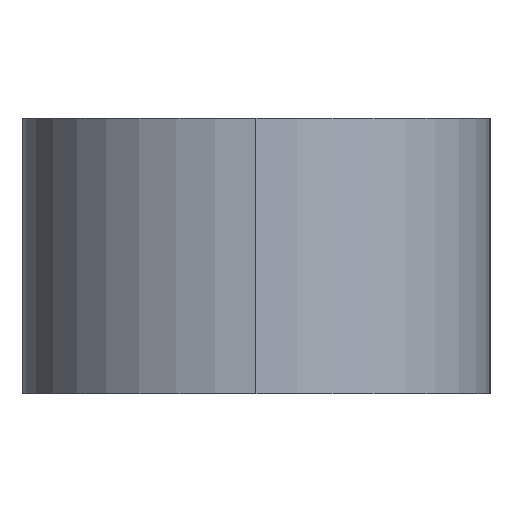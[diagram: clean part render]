
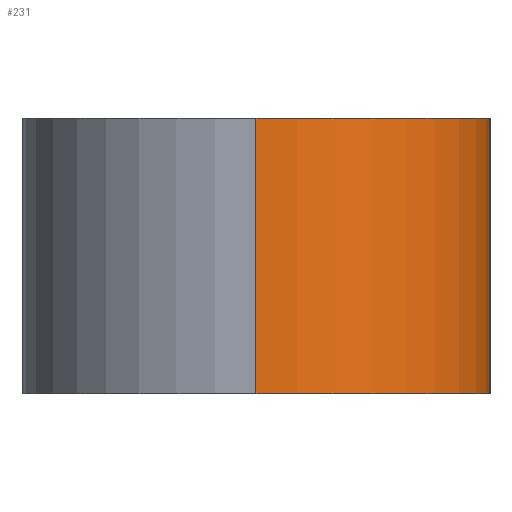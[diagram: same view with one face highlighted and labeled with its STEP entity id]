
A CAD part, left-side view. The second image highlights one B-rep face of the part: STEP entity #231.
In plain terms, the highlighted cylindrical face has radius 8.5 mm (diameter 17 mm), a partial arc.
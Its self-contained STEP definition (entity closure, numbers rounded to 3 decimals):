
#55 = CARTESIAN_POINT ( 'NONE',  ( 0., 0., 0. ) ) ;
#63 = DIRECTION ( 'NONE',  ( 1., 0., 0. ) ) ;
#64 = DIRECTION ( 'NONE',  ( 0., 0., 1. ) ) ;
#65 = CARTESIAN_POINT ( 'NONE',  ( 0., -8.5, 10. ) ) ;
#73 = DIRECTION ( 'NONE',  ( 0., 0., 1. ) ) ;
#74 = CARTESIAN_POINT ( 'NONE',  ( -8.5, 0., 10. ) ) ;
#81 = DIRECTION ( 'NONE',  ( 0., 0., -1. ) ) ;
#82 = CARTESIAN_POINT ( 'NONE',  ( 0., 0., 10. ) ) ;
#88 = DIRECTION ( 'NONE',  ( 0., 0., -1. ) ) ;
#94 = DIRECTION ( 'NONE',  ( 1., 0., 0. ) ) ;
#116 = CARTESIAN_POINT ( 'NONE',  ( 0., -8.5, 0. ) ) ;
#122 = CARTESIAN_POINT ( 'NONE',  ( -8.5, 0., 0. ) ) ;
#124 = CARTESIAN_POINT ( 'NONE',  ( -8.5, 0., 10. ) ) ;
#127 = CARTESIAN_POINT ( 'NONE',  ( 0., -8.5, 10. ) ) ;
#140 = CARTESIAN_POINT ( 'NONE',  ( 0., 0., 10. ) ) ;
#141 = DIRECTION ( 'NONE',  ( 0., 0., -1. ) ) ;
#143 = DIRECTION ( 'NONE',  ( -1., 0., 0. ) ) ;
#188 = AXIS2_PLACEMENT_3D ( 'NONE', #55, #64, #63 ) ;
#189 = AXIS2_PLACEMENT_3D ( 'NONE', #82, #73, #94 ) ;
#197 = EDGE_CURVE ( 'NONE', #356, #355, #344, .T. ) ;
#198 = EDGE_CURVE ( 'NONE', #356, #360, #343, .T. ) ;
#199 = EDGE_CURVE ( 'NONE', #360, #361, #341, .T. ) ;
#200 = EDGE_CURVE ( 'NONE', #355, #361, #338, .T. ) ;
#223 = AXIS2_PLACEMENT_3D ( 'NONE', #140, #141, #143 ) ;
#231 = ADVANCED_FACE ( 'NONE', ( #300 ), #291, .T. ) ;
#242 = ORIENTED_EDGE ( 'NONE', *, *, #199, .T. ) ;
#243 = EDGE_LOOP ( 'NONE', ( #245, #377, #242, #418 ) ) ;
#245 = ORIENTED_EDGE ( 'NONE', *, *, #197, .F. ) ;
#291 = CYLINDRICAL_SURFACE ( 'NONE', #223, 8.5 ) ;
#300 = FACE_OUTER_BOUND ( 'NONE', #243, .T. ) ;
#336 = VECTOR ( 'NONE', #81, 1000. ) ;
#338 = LINE ( 'NONE', #65, #336 ) ;
#339 = VECTOR ( 'NONE', #88, 1000. ) ;
#341 = CIRCLE ( 'NONE', #188, 8.5 ) ;
#343 = LINE ( 'NONE', #74, #339 ) ;
#344 = CIRCLE ( 'NONE', #189, 8.5 ) ;
#355 = VERTEX_POINT ( 'NONE', #127 ) ;
#356 = VERTEX_POINT ( 'NONE', #124 ) ;
#360 = VERTEX_POINT ( 'NONE', #122 ) ;
#361 = VERTEX_POINT ( 'NONE', #116 ) ;
#377 = ORIENTED_EDGE ( 'NONE', *, *, #198, .T. ) ;
#418 = ORIENTED_EDGE ( 'NONE', *, *, #200, .F. ) ;
